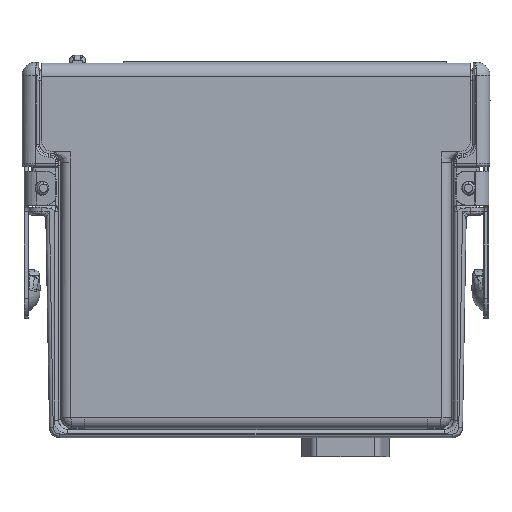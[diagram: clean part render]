
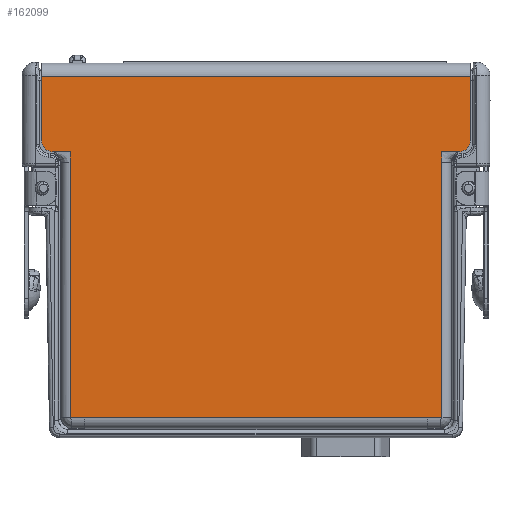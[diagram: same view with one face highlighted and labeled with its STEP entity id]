
A CAD part, left-side view. The second image highlights one B-rep face of the part: STEP entity #162099.
In plain terms, the highlighted planar face has unit normal (-1, 0, 0).
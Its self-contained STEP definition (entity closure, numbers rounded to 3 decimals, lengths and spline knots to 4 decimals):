
#159794=DIRECTION('',(0.,0.,-1.));
#159795=VECTOR('',#159794,0.476);
#159796=CARTESIAN_POINT('',(-0.4475,1.5895,2.676));
#159797=LINE('',#159796,#159795);
#159798=DIRECTION('',(0.,0.,1.));
#159799=VECTOR('',#159798,0.476);
#159800=CARTESIAN_POINT('',(-0.4475,-1.5895,2.2));
#159801=LINE('',#159800,#159799);
#159802=DIRECTION('',(0.,0.,-1.));
#159803=VECTOR('',#159802,0.079);
#159804=CARTESIAN_POINT('',(-0.4475,-1.3765,2.12));
#159805=LINE('',#159804,#159803);
#159806=DIRECTION('',(0.,1.,0.));
#159807=VECTOR('',#159806,0.105);
#159808=CARTESIAN_POINT('',(-0.4475,-1.3765,0.146));
#159809=LINE('',#159808,#159807);
#159810=DIRECTION('',(0.,1.,0.));
#159811=VECTOR('',#159810,0.105);
#159812=CARTESIAN_POINT('',(-0.4475,1.2715,0.146));
#159813=LINE('',#159812,#159811);
#159814=DIRECTION('',(0.,0.,1.));
#159815=VECTOR('',#159814,0.079);
#159816=CARTESIAN_POINT('',(-0.4475,1.3765,2.041));
#159817=LINE('',#159816,#159815);
#160078=DIRECTION('',(0.,-1.,0.));
#160079=VECTOR('',#160078,0.133);
#160080=CARTESIAN_POINT('',(-0.4475,1.5095,2.12));
#160081=LINE('',#160080,#160079);
#160098=DIRECTION('',(0.,-1.,0.));
#160099=VECTOR('',#160098,0.133);
#160100=CARTESIAN_POINT('',(-0.4475,-1.3765,2.12));
#160101=LINE('',#160100,#160099);
#160243=DIRECTION('',(0.,-1.,0.));
#160244=VECTOR('',#160243,3.179);
#160245=CARTESIAN_POINT('',(-0.4475,1.5895,2.676));
#160246=LINE('',#160245,#160244);
#160346=DIRECTION('',(0.,-1.,0.));
#160347=VECTOR('',#160346,2.543);
#160348=CARTESIAN_POINT('',(-0.4475,1.2715,0.146));
#160349=LINE('',#160348,#160347);
#160378=DIRECTION('',(0.,0.,1.));
#160379=VECTOR('',#160378,1.895);
#160380=CARTESIAN_POINT('',(-0.4475,-1.3765,0.146));
#160381=LINE('',#160380,#160379);
#160452=DIRECTION('',(0.,0.,1.));
#160453=VECTOR('',#160452,1.895);
#160454=CARTESIAN_POINT('',(-0.4475,1.3765,0.146));
#160455=LINE('',#160454,#160453);
#160719=CARTESIAN_POINT('',(-0.4475,1.5095,2.2));
#160720=DIRECTION('',(-1.,0.,0.));
#160721=DIRECTION('',(0.,1.,0.));
#160722=AXIS2_PLACEMENT_3D('',#160719,#160720,#160721);
#160737=CARTESIAN_POINT('',(-0.4475,-1.5095,2.2));
#160738=DIRECTION('',(-1.,0.,0.));
#160739=DIRECTION('',(0.,0.,-1.));
#160740=AXIS2_PLACEMENT_3D('',#160737,#160738,#160739);
#161628=CARTESIAN_POINT('',(-0.4475,-1.5895,2.676));
#161629=VERTEX_POINT('',#161628);
#161630=CARTESIAN_POINT('',(-0.4475,1.5895,2.676));
#161631=VERTEX_POINT('',#161630);
#161660=CARTESIAN_POINT('',(-0.4475,1.2715,0.146));
#161661=CARTESIAN_POINT('',(-0.4475,-1.2715,0.146));
#161662=VERTEX_POINT('',#161660);
#161663=VERTEX_POINT('',#161661);
#161672=CARTESIAN_POINT('',(-0.4475,-1.3765,0.146));
#161673=VERTEX_POINT('',#161672);
#161684=CARTESIAN_POINT('',(-0.4475,1.3765,0.146));
#161685=VERTEX_POINT('',#161684);
#161741=CARTESIAN_POINT('',(-0.4475,1.5095,2.12));
#161743=VERTEX_POINT('',#161741);
#161746=CARTESIAN_POINT('',(-0.4475,1.5895,2.2));
#161747=VERTEX_POINT('',#161746);
#161749=CARTESIAN_POINT('',(-0.4475,-1.5895,2.2));
#161751=VERTEX_POINT('',#161749);
#161754=CARTESIAN_POINT('',(-0.4475,-1.5095,2.12));
#161755=VERTEX_POINT('',#161754);
#161792=CARTESIAN_POINT('',(-0.4475,-1.3765,2.041));
#161793=VERTEX_POINT('',#161792);
#161796=CARTESIAN_POINT('',(-0.4475,-1.3765,2.12));
#161797=VERTEX_POINT('',#161796);
#161842=CARTESIAN_POINT('',(-0.4475,1.3765,2.041));
#161843=CARTESIAN_POINT('',(-0.4475,1.3765,2.12));
#161844=VERTEX_POINT('',#161842);
#161845=VERTEX_POINT('',#161843);
#162064=CARTESIAN_POINT('',(-0.4475,0.,1.421));
#162065=DIRECTION('',(-1.,0.,0.));
#162066=DIRECTION('',(0.,1.,0.));
#162067=AXIS2_PLACEMENT_3D('',#162064,#162065,#162066);
#162068=PLANE('',#162067);
#162070=ORIENTED_EDGE('',*,*,#162069,.F.);
#162072=ORIENTED_EDGE('',*,*,#162071,.F.);
#162074=ORIENTED_EDGE('',*,*,#162073,.T.);
#162076=ORIENTED_EDGE('',*,*,#162075,.F.);
#162078=ORIENTED_EDGE('',*,*,#162077,.F.);
#162080=ORIENTED_EDGE('',*,*,#162079,.F.);
#162082=ORIENTED_EDGE('',*,*,#162081,.T.);
#162084=ORIENTED_EDGE('',*,*,#162083,.F.);
#162086=ORIENTED_EDGE('',*,*,#162085,.T.);
#162088=ORIENTED_EDGE('',*,*,#162087,.F.);
#162090=ORIENTED_EDGE('',*,*,#162089,.T.);
#162092=ORIENTED_EDGE('',*,*,#162091,.T.);
#162094=ORIENTED_EDGE('',*,*,#162093,.T.);
#162096=ORIENTED_EDGE('',*,*,#162095,.F.);
#162097=EDGE_LOOP('',(#162070,#162072,#162074,#162076,#162078,#162080,#162082,
#162084,#162086,#162088,#162090,#162092,#162094,#162096));
#162098=FACE_OUTER_BOUND('',#162097,.F.);
#162099=ADVANCED_FACE('',(#162098),#162068,.T.);
#160723=CIRCLE('',#160722,0.08);
#160741=CIRCLE('',#160740,0.08);
#162069=EDGE_CURVE('',#161747,#161743,#160723,.T.);
#162071=EDGE_CURVE('',#161631,#161747,#159797,.T.);
#162073=EDGE_CURVE('',#161631,#161629,#160246,.T.);
#162075=EDGE_CURVE('',#161751,#161629,#159801,.T.);
#162077=EDGE_CURVE('',#161755,#161751,#160741,.T.);
#162079=EDGE_CURVE('',#161797,#161755,#160101,.T.);
#162081=EDGE_CURVE('',#161797,#161793,#159805,.T.);
#162083=EDGE_CURVE('',#161673,#161793,#160381,.T.);
#162085=EDGE_CURVE('',#161673,#161663,#159809,.T.);
#162087=EDGE_CURVE('',#161662,#161663,#160349,.T.);
#162089=EDGE_CURVE('',#161662,#161685,#159813,.T.);
#162091=EDGE_CURVE('',#161685,#161844,#160455,.T.);
#162093=EDGE_CURVE('',#161844,#161845,#159817,.T.);
#162095=EDGE_CURVE('',#161743,#161845,#160081,.T.);
